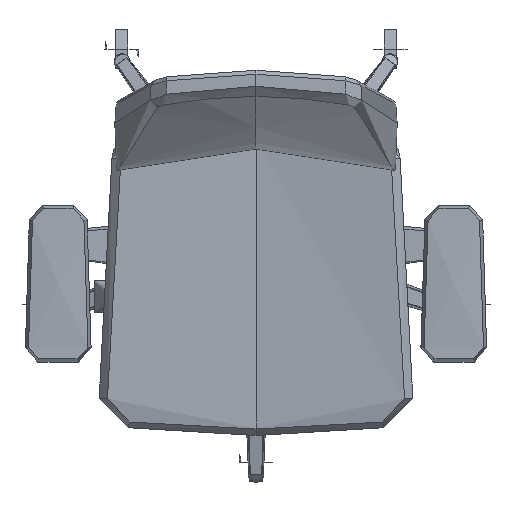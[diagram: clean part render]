
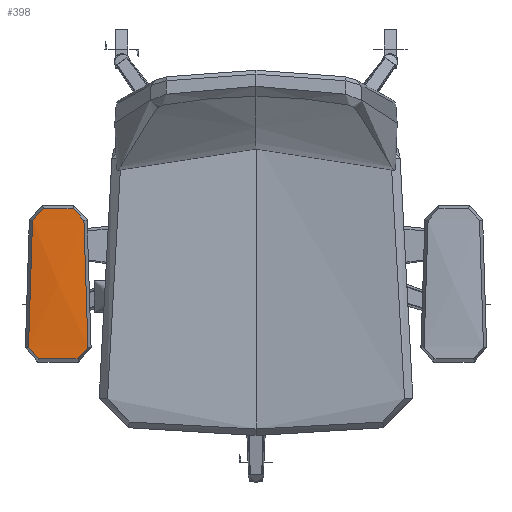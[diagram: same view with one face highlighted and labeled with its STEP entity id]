
A CAD part, top view. The second image highlights one B-rep face of the part: STEP entity #398.
In plain terms, the highlighted free-form (B-spline) face has degree [3, 3] with [5, 5] control points.
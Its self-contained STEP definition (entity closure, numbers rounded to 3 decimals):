
#398=ADVANCED_FACE('',(#822),#6159,.T.);
#822=FACE_OUTER_BOUND('',#1246,.T.);
#1246=EDGE_LOOP('',(#1957,#1958,#1959,#1960,#1961,#1962,#1963,#1964));
#1957=ORIENTED_EDGE('',*,*,#3643,.F.);
#1958=ORIENTED_EDGE('',*,*,#3642,.F.);
#1959=ORIENTED_EDGE('',*,*,#3641,.F.);
#1960=ORIENTED_EDGE('',*,*,#3653,.F.);
#1961=ORIENTED_EDGE('',*,*,#3640,.F.);
#1962=ORIENTED_EDGE('',*,*,#3639,.F.);
#1963=ORIENTED_EDGE('',*,*,#3638,.F.);
#1964=ORIENTED_EDGE('',*,*,#3652,.F.);
#3638=EDGE_CURVE('',#5612,#5613,#4565,.T.);
#3639=EDGE_CURVE('',#5613,#5614,#4566,.T.);
#3640=EDGE_CURVE('',#5614,#5615,#4567,.T.);
#3641=EDGE_CURVE('',#5616,#5617,#4568,.T.);
#3642=EDGE_CURVE('',#5617,#5618,#4569,.T.);
#3643=EDGE_CURVE('',#5618,#5611,#4570,.T.);
#3652=EDGE_CURVE('',#5611,#5612,#4571,.T.);
#3653=EDGE_CURVE('',#5615,#5616,#4572,.T.);
#4565=B_SPLINE_CURVE_WITH_KNOTS('',3,(#18946,#18947,#18948,#18949,#18950,
#18951,#18952),.UNSPECIFIED.,.F.,.F.,(4,3,4),(0.,12.445,24.857),
 .UNSPECIFIED.);
#4566=B_SPLINE_CURVE_WITH_KNOTS('',3,(#18953,#18954,#18955,#18956,#18957,
#18958,#18959,#18960,#18961,#18962,#18963),.UNSPECIFIED.,.F.,.F.,(4,2,3,
2,4),(0.,14.817,29.633,44.448,59.265),
 .UNSPECIFIED.);
#4567=B_SPLINE_CURVE_WITH_KNOTS('',3,(#18964,#18965,#18966,#18967,#18968,
#18969,#18970),.UNSPECIFIED.,.F.,.F.,(4,3,4),(0.,12.412,24.857),
 .UNSPECIFIED.);
#4568=B_SPLINE_CURVE_WITH_KNOTS('',3,(#18971,#18972,#18973,#18974,#18975,
#18976,#18977),.UNSPECIFIED.,.F.,.F.,(4,3,4),(0.,12.85,25.723),
 .UNSPECIFIED.);
#4569=B_SPLINE_CURVE_WITH_KNOTS('',3,(#18978,#18979,#18980,#18981,#18982,
#18983,#18984),.UNSPECIFIED.,.F.,.F.,(4,3,4),(0.,22.404,44.809),
 .UNSPECIFIED.);
#4570=B_SPLINE_CURVE_WITH_KNOTS('',3,(#18985,#18986,#18987,#18988,#18989,
#18990,#18991),.UNSPECIFIED.,.F.,.F.,(4,3,4),(0.,12.873,25.723),
 .UNSPECIFIED.);
#4571=B_SPLINE_CURVE_WITH_KNOTS('',3,(#19008,#19009,#19010,#19011,#19012,
#19013,#19014,#19015,#19016,#19017,#19018),.UNSPECIFIED.,.F.,.F.,(4,2,3,
2,4),(0.,47.289,94.941,141.92,188.907),
 .UNSPECIFIED.);
#4572=B_SPLINE_CURVE_WITH_KNOTS('',3,(#19019,#19020,#19021,#19022,#19023,
#19024,#19025,#19026,#19027,#19028,#19029),.UNSPECIFIED.,.F.,.F.,(4,2,3,
2,4),(0.,46.987,93.966,141.618,188.907),
 .UNSPECIFIED.);
#5611=VERTEX_POINT('',#18874);
#5612=VERTEX_POINT('',#18875);
#5613=VERTEX_POINT('',#18876);
#5614=VERTEX_POINT('',#18877);
#5615=VERTEX_POINT('',#18878);
#5616=VERTEX_POINT('',#18879);
#5617=VERTEX_POINT('',#18880);
#5618=VERTEX_POINT('',#18881);
#6159=B_SPLINE_SURFACE_WITH_KNOTS('',3,3,((#18833,#18834,#18835,#18836,
#18837),(#18838,#18839,#18840,#18841,#18842),(#18843,#18844,#18845,#18846,
#18847),(#18848,#18849,#18850,#18851,#18852),(#18853,#18854,#18855,#18856,
#18857)),.UNSPECIFIED.,.F.,.F.,.F.,(4,1,4),(4,1,4),(0.,46.393,
92.785),(0.,115.149,230.299),.UNSPECIFIED.);
#18833=CARTESIAN_POINT('',(-339.629,-172.146,670.683));
#18834=CARTESIAN_POINT('',(-339.629,-133.813,671.021));
#18835=CARTESIAN_POINT('',(-339.629,-57.147,671.023));
#18836=CARTESIAN_POINT('',(-339.629,19.519,671.021));
#18837=CARTESIAN_POINT('',(-339.629,57.852,670.683));
#18838=CARTESIAN_POINT('',(-324.296,-172.146,671.146));
#18839=CARTESIAN_POINT('',(-324.296,-133.813,674.226));
#18840=CARTESIAN_POINT('',(-324.296,-57.147,674.18));
#18841=CARTESIAN_POINT('',(-324.296,19.519,674.226));
#18842=CARTESIAN_POINT('',(-324.296,57.852,671.146));
#18843=CARTESIAN_POINT('',(-293.63,-172.146,671.146));
#18844=CARTESIAN_POINT('',(-293.63,-133.813,674.208));
#18845=CARTESIAN_POINT('',(-293.63,-57.147,676.288));
#18846=CARTESIAN_POINT('',(-293.63,19.519,674.208));
#18847=CARTESIAN_POINT('',(-293.63,57.852,671.146));
#18848=CARTESIAN_POINT('',(-262.965,-172.146,671.146));
#18849=CARTESIAN_POINT('',(-262.965,-133.813,674.226));
#18850=CARTESIAN_POINT('',(-262.965,-57.147,674.18));
#18851=CARTESIAN_POINT('',(-262.965,19.519,674.226));
#18852=CARTESIAN_POINT('',(-262.965,57.852,671.146));
#18853=CARTESIAN_POINT('',(-247.632,-172.146,670.683));
#18854=CARTESIAN_POINT('',(-247.632,-133.813,671.021));
#18855=CARTESIAN_POINT('',(-247.632,-57.147,671.023));
#18856=CARTESIAN_POINT('',(-247.632,19.519,671.021));
#18857=CARTESIAN_POINT('',(-247.632,57.852,670.683));
#18874=CARTESIAN_POINT('',(-255.483,37.539,671.554));
#18875=CARTESIAN_POINT('',(-249.52,-151.082,671.039));
#18876=CARTESIAN_POINT('',(-264.227,-168.351,671.252));
#18877=CARTESIAN_POINT('',(-323.034,-168.351,671.252));
#18878=CARTESIAN_POINT('',(-337.74,-151.082,671.039));
#18879=CARTESIAN_POINT('',(-331.777,37.539,671.554));
#18880=CARTESIAN_POINT('',(-315.859,54.982,671.296));
#18881=CARTESIAN_POINT('',(-271.402,54.982,671.296));
#18946=CARTESIAN_POINT('',(-249.52,-151.082,671.039));
#18947=CARTESIAN_POINT('',(-249.695,-155.189,671.01));
#18948=CARTESIAN_POINT('',(-251.266,-159.115,671.106));
#18949=CARTESIAN_POINT('',(-253.933,-162.235,671.161));
#18950=CARTESIAN_POINT('',(-256.594,-165.349,671.215));
#18951=CARTESIAN_POINT('',(-260.215,-167.509,671.223));
#18952=CARTESIAN_POINT('',(-264.227,-168.351,671.252));
#18953=CARTESIAN_POINT('',(-264.227,-168.351,671.252));
#18954=CARTESIAN_POINT('',(-269.062,-169.366,671.287));
#18955=CARTESIAN_POINT('',(-273.935,-170.142,671.266));
#18956=CARTESIAN_POINT('',(-283.761,-171.184,671.224));
#18957=CARTESIAN_POINT('',(-288.69,-171.448,671.202));
#18958=CARTESIAN_POINT('',(-293.63,-171.448,671.202));
#18959=CARTESIAN_POINT('',(-298.571,-171.448,671.202));
#18960=CARTESIAN_POINT('',(-303.5,-171.184,671.224));
#18961=CARTESIAN_POINT('',(-313.325,-170.142,671.266));
#18962=CARTESIAN_POINT('',(-318.198,-169.366,671.287));
#18963=CARTESIAN_POINT('',(-323.034,-168.351,671.252));
#18964=CARTESIAN_POINT('',(-323.034,-168.351,671.252));
#18965=CARTESIAN_POINT('',(-327.045,-167.509,671.223));
#18966=CARTESIAN_POINT('',(-330.666,-165.349,671.215));
#18967=CARTESIAN_POINT('',(-333.327,-162.235,671.161));
#18968=CARTESIAN_POINT('',(-335.994,-159.115,671.106));
#18969=CARTESIAN_POINT('',(-337.566,-155.189,671.01));
#18970=CARTESIAN_POINT('',(-337.74,-151.082,671.039));
#18971=CARTESIAN_POINT('',(-331.777,37.539,671.554));
#18972=CARTESIAN_POINT('',(-331.351,41.763,671.472));
#18973=CARTESIAN_POINT('',(-329.558,45.738,671.463));
#18974=CARTESIAN_POINT('',(-326.699,48.872,671.421));
#18975=CARTESIAN_POINT('',(-323.834,52.014,671.379));
#18976=CARTESIAN_POINT('',(-320.034,54.164,671.31));
#18977=CARTESIAN_POINT('',(-315.859,54.982,671.296));
#18978=CARTESIAN_POINT('',(-315.859,54.982,671.296));
#18979=CARTESIAN_POINT('',(-308.525,56.418,671.271));
#18980=CARTESIAN_POINT('',(-301.104,57.154,671.202));
#18981=CARTESIAN_POINT('',(-293.63,57.154,671.202));
#18982=CARTESIAN_POINT('',(-286.156,57.154,671.202));
#18983=CARTESIAN_POINT('',(-278.735,56.418,671.271));
#18984=CARTESIAN_POINT('',(-271.402,54.982,671.296));
#18985=CARTESIAN_POINT('',(-271.402,54.982,671.296));
#18986=CARTESIAN_POINT('',(-267.227,54.164,671.31));
#18987=CARTESIAN_POINT('',(-263.427,52.014,671.379));
#18988=CARTESIAN_POINT('',(-260.562,48.872,671.421));
#18989=CARTESIAN_POINT('',(-257.703,45.738,671.463));
#18990=CARTESIAN_POINT('',(-255.909,41.763,671.472));
#18991=CARTESIAN_POINT('',(-255.483,37.539,671.554));
#19008=CARTESIAN_POINT('',(-255.483,37.539,671.554));
#19009=CARTESIAN_POINT('',(-253.901,21.855,671.858));
#19010=CARTESIAN_POINT('',(-252.494,5.978,671.799));
#19011=CARTESIAN_POINT('',(-250.263,-25.594,671.559));
#19012=CARTESIAN_POINT('',(-249.438,-41.269,671.386));
#19013=CARTESIAN_POINT('',(-248.925,-57.147,671.284));
#19014=CARTESIAN_POINT('',(-248.418,-72.823,671.184));
#19015=CARTESIAN_POINT('',(-248.225,-88.436,671.145));
#19016=CARTESIAN_POINT('',(-248.442,-119.807,671.123));
#19017=CARTESIAN_POINT('',(-248.854,-135.41,671.151));
#19018=CARTESIAN_POINT('',(-249.52,-151.082,671.039));
#19019=CARTESIAN_POINT('',(-337.74,-151.082,671.039));
#19020=CARTESIAN_POINT('',(-338.407,-135.41,671.151));
#19021=CARTESIAN_POINT('',(-338.819,-119.807,671.123));
#19022=CARTESIAN_POINT('',(-339.035,-88.436,671.145));
#19023=CARTESIAN_POINT('',(-338.842,-72.823,671.184));
#19024=CARTESIAN_POINT('',(-338.336,-57.147,671.284));
#19025=CARTESIAN_POINT('',(-337.823,-41.269,671.386));
#19026=CARTESIAN_POINT('',(-336.997,-25.594,671.559));
#19027=CARTESIAN_POINT('',(-334.767,5.978,671.799));
#19028=CARTESIAN_POINT('',(-333.36,21.855,671.858));
#19029=CARTESIAN_POINT('',(-331.777,37.539,671.554));
